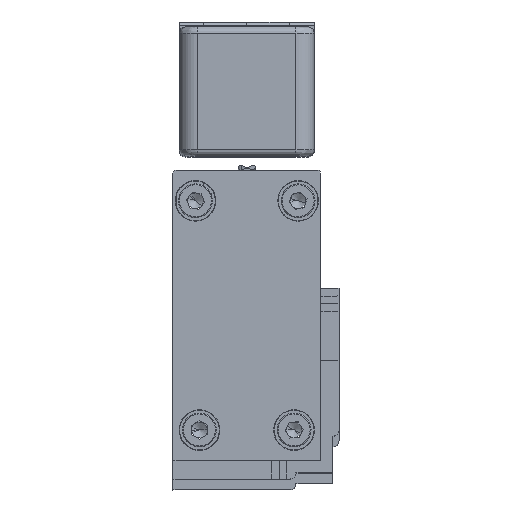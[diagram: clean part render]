
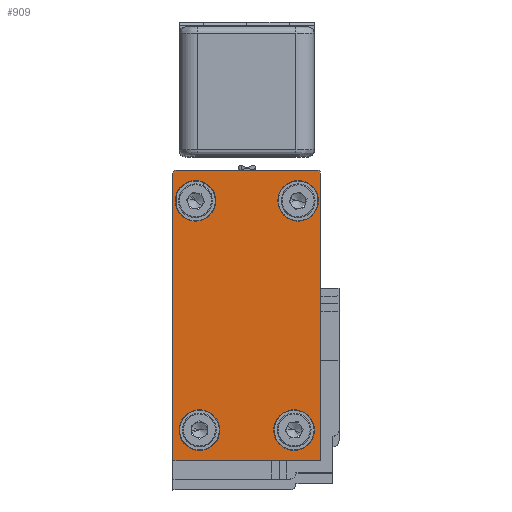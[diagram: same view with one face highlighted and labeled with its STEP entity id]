
A CAD part, top view. The second image highlights one B-rep face of the part: STEP entity #909.
In plain terms, the highlighted planar face has unit normal (0, 0, 1).
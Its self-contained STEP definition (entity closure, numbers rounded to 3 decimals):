
#107 = CARTESIAN_POINT ( 'NONE',  ( 5.984, -20.888, 3185. ) ) ;
#405 = VECTOR ( 'NONE', #21018, 1000. ) ;
#426 = CARTESIAN_POINT ( 'NONE',  ( -11.063, 21.401, 3185. ) ) ;
#596 = CIRCLE ( 'NONE', #15580, 3.302 ) ;
#681 = VERTEX_POINT ( 'NONE', #29414 ) ;
#909 = ADVANCED_FACE ( 'NONE', ( #27573, #13908, #20363, #7383, #942 ), #24773, .T. ) ;
#942 = FACE_OUTER_BOUND ( 'NONE', #21108, .T. ) ;
#1440 = ORIENTED_EDGE ( 'NONE', *, *, #4037, .T. ) ;
#1563 = CARTESIAN_POINT ( 'NONE',  ( -18.014, -20.888, 3185. ) ) ;
#1697 = EDGE_CURVE ( 'NONE', #26045, #20961, #6505, .T. ) ;
#1723 = DIRECTION ( 'NONE',  ( 0., 0., -1. ) ) ;
#1861 = ORIENTED_EDGE ( 'NONE', *, *, #13804, .T. ) ;
#2633 = CARTESIAN_POINT ( 'NONE',  ( 5.984, -20.888, 3185. ) ) ;
#2818 = DIRECTION ( 'NONE',  ( 0., 0., -1. ) ) ;
#2900 = AXIS2_PLACEMENT_3D ( 'NONE', #17404, #2818, #19865 ) ;
#3077 = DIRECTION ( 'NONE',  ( 0., 0., 1. ) ) ;
#3240 = AXIS2_PLACEMENT_3D ( 'NONE', #9113, #26162, #11570 ) ;
#3318 = CARTESIAN_POINT ( 'NONE',  ( 5.984, 25.871, 3185. ) ) ;
#3582 = CIRCLE ( 'NONE', #14204, 0.5 ) ;
#3848 = EDGE_CURVE ( 'NONE', #14602, #11598, #6091, .T. ) ;
#4037 = EDGE_CURVE ( 'NONE', #6645, #28158, #15607, .T. ) ;
#4075 = AXIS2_PLACEMENT_3D ( 'NONE', #7076, #24082, #9527 ) ;
#4205 = AXIS2_PLACEMENT_3D ( 'NONE', #10335, #27352, #12794 ) ;
#4384 = CARTESIAN_POINT ( 'NONE',  ( 5.485, 26.371, 3185. ) ) ;
#4468 = CARTESIAN_POINT ( 'NONE',  ( -17.514, 25.871, 3185. ) ) ;
#4557 = CARTESIAN_POINT ( 'NONE',  ( -18.014, 25.871, 3185. ) ) ;
#4971 = DIRECTION ( 'NONE',  ( 0., 0., -1. ) ) ;
#6091 = LINE ( 'NONE', #20611, #12574 ) ;
#6157 = AXIS2_PLACEMENT_3D ( 'NONE', #24732, #10173, #27179 ) ;
#6242 = ORIENTED_EDGE ( 'NONE', *, *, #6453, .T. ) ;
#6453 = EDGE_CURVE ( 'NONE', #19899, #22819, #25312, .T. ) ;
#6505 = CIRCLE ( 'NONE', #4205, 3.302 ) ;
#6645 = VERTEX_POINT ( 'NONE', #20512 ) ;
#6830 = CIRCLE ( 'NONE', #4075, 3.302 ) ;
#6853 = ORIENTED_EDGE ( 'NONE', *, *, #29708, .T. ) ;
#6918 = DIRECTION ( 'NONE',  ( 0., 1., 0. ) ) ;
#6956 = CIRCLE ( 'NONE', #2900, 3.302 ) ;
#7019 = VECTOR ( 'NONE', #7412, 1000. ) ;
#7029 = EDGE_LOOP ( 'NONE', ( #12506, #20211 ) ) ;
#7076 = CARTESIAN_POINT ( 'NONE',  ( 2.335, 21.401, 3185. ) ) ;
#7178 = EDGE_CURVE ( 'NONE', #26911, #8964, #6956, .T. ) ;
#7216 = EDGE_CURVE ( 'NONE', #8964, #26911, #16109, .T. ) ;
#7383 = FACE_BOUND ( 'NONE', #21627, .T. ) ;
#7412 = DIRECTION ( 'NONE',  ( 0., 1., 0. ) ) ;
#7600 = LINE ( 'NONE', #1563, #405 ) ;
#7727 = ORIENTED_EDGE ( 'NONE', *, *, #23432, .F. ) ;
#7740 = AXIS2_PLACEMENT_3D ( 'NONE', #16299, #1723, #18751 ) ;
#7759 = LINE ( 'NONE', #107, #7019 ) ;
#7989 = CIRCLE ( 'NONE', #18512, 3.302 ) ;
#8954 = DIRECTION ( 'NONE',  ( 0., 0., -1. ) ) ;
#8964 = VERTEX_POINT ( 'NONE', #17455 ) ;
#9113 = CARTESIAN_POINT ( 'NONE',  ( 2.335, 21.401, 3185. ) ) ;
#9421 = VECTOR ( 'NONE', #22649, 1000. ) ;
#9527 = DIRECTION ( 'NONE',  ( -1., 0., 0. ) ) ;
#10173 = DIRECTION ( 'NONE',  ( 0., 0., -1. ) ) ;
#10335 = CARTESIAN_POINT ( 'NONE',  ( 1.676, -15.887, 3185. ) ) ;
#10727 = CARTESIAN_POINT ( 'NONE',  ( 5.984, 7.11, 3185. ) ) ;
#11428 = EDGE_CURVE ( 'NONE', #21197, #12768, #7759, .T. ) ;
#11437 = CARTESIAN_POINT ( 'NONE',  ( -0.967, 21.401, 3185. ) ) ;
#11517 = VERTEX_POINT ( 'NONE', #426 ) ;
#11570 = DIRECTION ( 'NONE',  ( -1., 0., 0. ) ) ;
#11598 = VERTEX_POINT ( 'NONE', #27412 ) ;
#11854 = VERTEX_POINT ( 'NONE', #17161 ) ;
#12193 = EDGE_CURVE ( 'NONE', #11517, #681, #7989, .T. ) ;
#12506 = ORIENTED_EDGE ( 'NONE', *, *, #1697, .T. ) ;
#12574 = VECTOR ( 'NONE', #13288, 1000. ) ;
#12653 = CARTESIAN_POINT ( 'NONE',  ( 5.485, 25.871, 3185. ) ) ;
#12768 = VERTEX_POINT ( 'NONE', #10727 ) ;
#12794 = DIRECTION ( 'NONE',  ( -1., 0., 0. ) ) ;
#13288 = DIRECTION ( 'NONE',  ( 0., -1., 0. ) ) ;
#13305 = EDGE_CURVE ( 'NONE', #28158, #6645, #6830, .T. ) ;
#13804 = EDGE_CURVE ( 'NONE', #12768, #19899, #26590, .T. ) ;
#13908 = FACE_BOUND ( 'NONE', #14439, .T. ) ;
#14204 = AXIS2_PLACEMENT_3D ( 'NONE', #4468, #21491, #6918 ) ;
#14439 = EDGE_LOOP ( 'NONE', ( #26788, #1440 ) ) ;
#14602 = VERTEX_POINT ( 'NONE', #4557 ) ;
#15074 = DIRECTION ( 'NONE',  ( 0., 1., 0. ) ) ;
#15097 = AXIS2_PLACEMENT_3D ( 'NONE', #12653, #29653, #15074 ) ;
#15580 = AXIS2_PLACEMENT_3D ( 'NONE', #19599, #4971, #22031 ) ;
#15607 = CIRCLE ( 'NONE', #3240, 3.302 ) ;
#15802 = EDGE_LOOP ( 'NONE', ( #23673, #28574 ) ) ;
#16109 = CIRCLE ( 'NONE', #6157, 3.302 ) ;
#16299 = CARTESIAN_POINT ( 'NONE',  ( -14.365, 21.401, 3185. ) ) ;
#17161 = CARTESIAN_POINT ( 'NONE',  ( -17.514, 26.371, 3185. ) ) ;
#17404 = CARTESIAN_POINT ( 'NONE',  ( -13.714, -15.887, 3185. ) ) ;
#17455 = CARTESIAN_POINT ( 'NONE',  ( -17.017, -15.887, 3185. ) ) ;
#17461 = ORIENTED_EDGE ( 'NONE', *, *, #7178, .T. ) ;
#17647 = CARTESIAN_POINT ( 'NONE',  ( -18.014, -20.888, 3185. ) ) ;
#18512 = AXIS2_PLACEMENT_3D ( 'NONE', #23528, #8954, #26005 ) ;
#18751 = DIRECTION ( 'NONE',  ( -1., 0., 0. ) ) ;
#19599 = CARTESIAN_POINT ( 'NONE',  ( 1.676, -15.887, 3185. ) ) ;
#19865 = DIRECTION ( 'NONE',  ( -1., 0., 0. ) ) ;
#19899 = VERTEX_POINT ( 'NONE', #3318 ) ;
#20114 = DIRECTION ( 'NONE',  ( -1., 0., 0. ) ) ;
#20128 = VECTOR ( 'NONE', #25592, 1000. ) ;
#20211 = ORIENTED_EDGE ( 'NONE', *, *, #28451, .T. ) ;
#20363 = FACE_BOUND ( 'NONE', #7029, .T. ) ;
#20512 = CARTESIAN_POINT ( 'NONE',  ( 5.637, 21.401, 3185. ) ) ;
#20611 = CARTESIAN_POINT ( 'NONE',  ( -18.014, 25.871, 3185. ) ) ;
#20961 = VERTEX_POINT ( 'NONE', #21070 ) ;
#21018 = DIRECTION ( 'NONE',  ( 1., 0., 0. ) ) ;
#21070 = CARTESIAN_POINT ( 'NONE',  ( 4.978, -15.887, 3185. ) ) ;
#21108 = EDGE_LOOP ( 'NONE', ( #28655, #1861, #6242, #22876, #7727, #25742, #6853 ) ) ;
#21197 = VERTEX_POINT ( 'NONE', #2633 ) ;
#21481 = CARTESIAN_POINT ( 'NONE',  ( -10.412, -15.887, 3185. ) ) ;
#21491 = DIRECTION ( 'NONE',  ( 0., 0., -1. ) ) ;
#21627 = EDGE_LOOP ( 'NONE', ( #22270, #17461 ) ) ;
#22031 = DIRECTION ( 'NONE',  ( -1., 0., 0. ) ) ;
#22270 = ORIENTED_EDGE ( 'NONE', *, *, #7216, .T. ) ;
#22649 = DIRECTION ( 'NONE',  ( -1., 0., 0. ) ) ;
#22819 = VERTEX_POINT ( 'NONE', #4384 ) ;
#22876 = ORIENTED_EDGE ( 'NONE', *, *, #27466, .T. ) ;
#23432 = EDGE_CURVE ( 'NONE', #14602, #11854, #3582, .T. ) ;
#23528 = CARTESIAN_POINT ( 'NONE',  ( -14.365, 21.401, 3185. ) ) ;
#23673 = ORIENTED_EDGE ( 'NONE', *, *, #26793, .T. ) ;
#23845 = CARTESIAN_POINT ( 'NONE',  ( -1.626, -15.887, 3185. ) ) ;
#24082 = DIRECTION ( 'NONE',  ( 0., 0., -1. ) ) ;
#24301 = CIRCLE ( 'NONE', #7740, 3.302 ) ;
#24732 = CARTESIAN_POINT ( 'NONE',  ( -13.714, -15.887, 3185. ) ) ;
#24773 = PLANE ( 'NONE',  #31063 ) ;
#25312 = CIRCLE ( 'NONE', #15097, 0.5 ) ;
#25592 = DIRECTION ( 'NONE',  ( 0., 1., 0. ) ) ;
#25742 = ORIENTED_EDGE ( 'NONE', *, *, #3848, .T. ) ;
#26005 = DIRECTION ( 'NONE',  ( -1., 0., 0. ) ) ;
#26045 = VERTEX_POINT ( 'NONE', #23845 ) ;
#26162 = DIRECTION ( 'NONE',  ( 0., 0., -1. ) ) ;
#26590 = LINE ( 'NONE', #28460, #20128 ) ;
#26788 = ORIENTED_EDGE ( 'NONE', *, *, #13305, .T. ) ;
#26793 = EDGE_CURVE ( 'NONE', #681, #11517, #24301, .T. ) ;
#26911 = VERTEX_POINT ( 'NONE', #21481 ) ;
#27179 = DIRECTION ( 'NONE',  ( -1., 0., 0. ) ) ;
#27352 = DIRECTION ( 'NONE',  ( 0., 0., -1. ) ) ;
#27412 = CARTESIAN_POINT ( 'NONE',  ( -18.014, -20.888, 3185. ) ) ;
#27466 = EDGE_CURVE ( 'NONE', #22819, #11854, #29588, .T. ) ;
#27573 = FACE_BOUND ( 'NONE', #15802, .T. ) ;
#28158 = VERTEX_POINT ( 'NONE', #11437 ) ;
#28451 = EDGE_CURVE ( 'NONE', #20961, #26045, #596, .T. ) ;
#28460 = CARTESIAN_POINT ( 'NONE',  ( 5.984, 7.11, 3185. ) ) ;
#28574 = ORIENTED_EDGE ( 'NONE', *, *, #12193, .T. ) ;
#28655 = ORIENTED_EDGE ( 'NONE', *, *, #11428, .T. ) ;
#29414 = CARTESIAN_POINT ( 'NONE',  ( -17.667, 21.401, 3185. ) ) ;
#29588 = LINE ( 'NONE', #30159, #9421 ) ;
#29653 = DIRECTION ( 'NONE',  ( 0., 0., 1. ) ) ;
#29708 = EDGE_CURVE ( 'NONE', #11598, #21197, #7600, .T. ) ;
#30159 = CARTESIAN_POINT ( 'NONE',  ( 5.485, 26.371, 3185. ) ) ;
#31063 = AXIS2_PLACEMENT_3D ( 'NONE', #17647, #3077, #20114 ) ;
